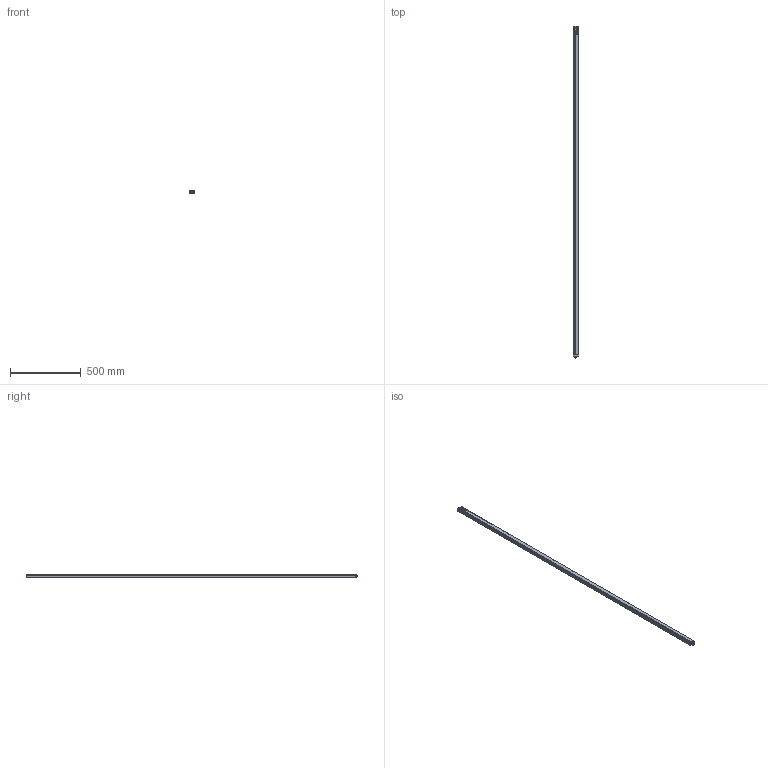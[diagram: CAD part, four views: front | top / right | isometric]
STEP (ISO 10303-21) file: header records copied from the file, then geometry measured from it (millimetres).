
FILE_DESCRIPTION(/* description */ (''),/* implementation_level */ '2;1');
FILE_NAME(/* name */ 'C:\Users\andre\SynologyDrive\Optoscan\Libreria Componenti\00 - Barriere\Barriera sorgente\Argo_2320_TX.stp',/* time_stamp */ '2021-04-22T10:31:58+02:00',/* author */ ('andre'),/* organization */ (''),/* preprocessor_version */ 'ST-DEVELOPER v18',/* originating_system */ 'Autodesk Inventor 2020',/* authorisation */ '');
FILE_SCHEMA (('AUTOMOTIVE_DESIGN { 1 0 10303 214 3 1 1 }'));
Length unit declared in the file: millimetre
Products named in the file (1): Argo_2320_TX
Bounding box: 40.5 x 2353.3 x 20.75 mm (x, y, z)
Volume: 462979 mm3; surface area: 610703.2 mm2
Topology: 1 solids, 1 shells, 696 faces, 1911 edges, 1225 vertices
Faces by surface type: plane 321, cylinder 195, bspline 94, torus 72, cone 8, sphere 6
Full cylindrical faces by diameter (mm): 1 x4, 2.459 x4, 2.5 x4, 3 x4, 3.5 x4, 5.5 x4, 8 x1, 10.5 x2, 11.75 x9, 15.7 x1, 17.5 x1
Entity records: 30770 total; most frequent: CARTESIAN_POINT 12670, ORIENTED_EDGE 3806, DIRECTION 3415, EDGE_CURVE 1903, VERTEX_POINT 1225, AXIS2_PLACEMENT_3D 1193, LINE 1029, VECTOR 1029
